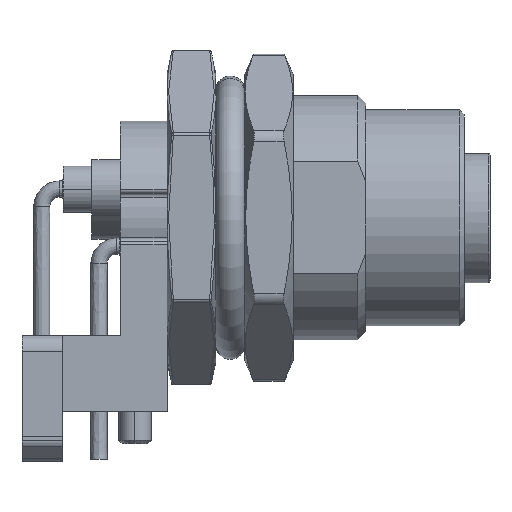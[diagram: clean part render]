
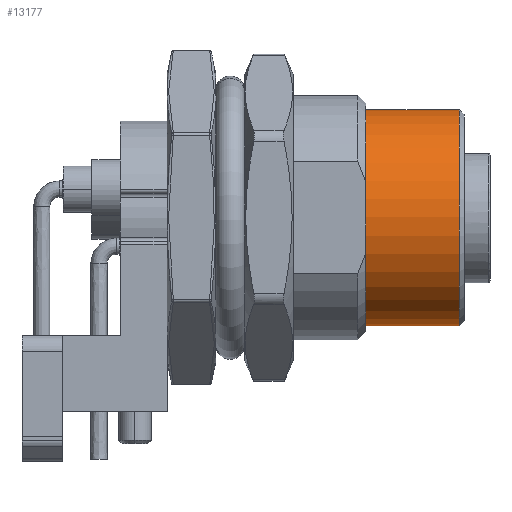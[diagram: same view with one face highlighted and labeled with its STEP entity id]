
A CAD part, top view. The second image highlights one B-rep face of the part: STEP entity #13177.
In plain terms, the highlighted cylindrical face has radius 6.7 mm (diameter 13.4 mm), a partial arc.
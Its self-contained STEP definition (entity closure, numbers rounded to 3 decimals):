
#3236=CARTESIAN_POINT('',(21.3,0.,0.));
#3237=DIRECTION('',(1.,0.,0.));
#3238=DIRECTION('',(0.,1.,0.));
#3239=AXIS2_PLACEMENT_3D('',#3236,#3237,#3238);
#3254=CARTESIAN_POINT('',(27.1,0.,0.));
#3255=DIRECTION('',(-1.,0.,0.));
#3256=DIRECTION('',(0.,-1.,0.));
#3257=AXIS2_PLACEMENT_3D('',#3254,#3255,#3256);
#3272=DIRECTION('',(-1.,0.,0.));
#3273=VECTOR('',#3272,5.8);
#3274=CARTESIAN_POINT('',(27.1,6.7,
0.));
#3275=LINE('',#3274,#3273);
#3276=DIRECTION('',(-1.,0.,0.));
#3277=VECTOR('',#3276,5.8);
#3278=CARTESIAN_POINT('',(27.1,-6.7,
0.));
#3279=LINE('',#3278,#3277);
#5634=CARTESIAN_POINT('',(21.3,6.7,0.));
#5635=CARTESIAN_POINT('',(21.3,-6.7,0.));
#5636=VERTEX_POINT('',#5634);
#5637=VERTEX_POINT('',#5635);
#5745=CARTESIAN_POINT('',(27.1,-6.7,0.));
#5746=CARTESIAN_POINT('',(27.1,6.7,0.));
#5747=VERTEX_POINT('',#5745);
#5748=VERTEX_POINT('',#5746);
#13163=CARTESIAN_POINT('',(11.23,0.,0.));
#13164=DIRECTION('',(1.,0.,0.));
#13165=DIRECTION('',(0.,-1.,0.));
#13166=AXIS2_PLACEMENT_3D('',#13163,#13164,#13165);
#13167=CYLINDRICAL_SURFACE('',#13166,6.7);
#13169=ORIENTED_EDGE('',*,*,#13168,.F.);
#13171=ORIENTED_EDGE('',*,*,#13170,.T.);
#13172=ORIENTED_EDGE('',*,*,#13149,.F.);
#13174=ORIENTED_EDGE('',*,*,#13173,.F.);
#13175=EDGE_LOOP('',(#13169,#13171,#13172,#13174));
#13176=FACE_OUTER_BOUND('',#13175,.F.);
#13177=ADVANCED_FACE('',(#13176),#13167,.T.);
#3240=CIRCLE('',#3239,6.7);
#3258=CIRCLE('',#3257,6.7);
#13149=EDGE_CURVE('',#5636,#5637,#3240,.T.);
#13168=EDGE_CURVE('',#5747,#5748,#3258,.T.);
#13170=EDGE_CURVE('',#5747,#5637,#3279,.T.);
#13173=EDGE_CURVE('',#5748,#5636,#3275,.T.);
